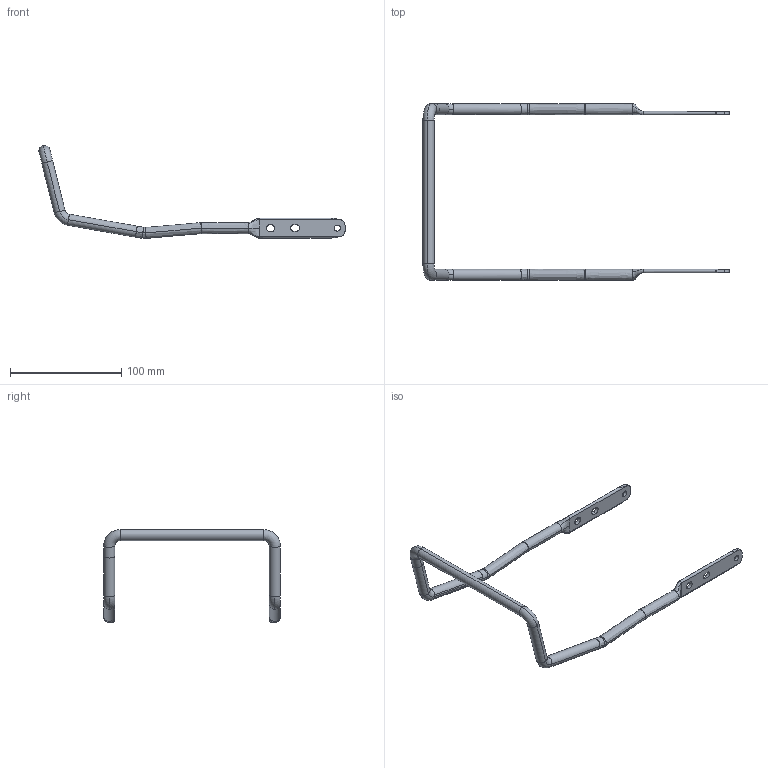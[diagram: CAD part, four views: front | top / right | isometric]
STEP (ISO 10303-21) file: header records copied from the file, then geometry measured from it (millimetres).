
FILE_DESCRIPTION(('CATIA V5 STEP Exchange'),'2;1');
FILE_NAME('F:\福田A6\1-数据\6-冻结数据\第九批\设变\滑轨解锁手柄设变20241021\设变后数据\SHT0017092-20241021\SHT0017092.stp','2024-10-21T09:12:24+00:00',('none'),('none'),'CATIA Version 5 Release 20 GA (IN-10)','CATIA V5 STEP AP203','none');
FILE_SCHEMA(('CONFIG_CONTROL_DESIGN'));
Length unit declared in the file: millimetre
Products named in the file (1): SHT0017092-20241021
Bounding box: 275.31 x 159 x 83.58 mm (x, y, z)
Volume: 32701.4 mm3; surface area: 38956.6 mm2
Topology: 1 solids, 2 shells, 149 faces, 381 edges, 236 vertices
Faces by surface type: cylinder 48, bspline 30, plane 26, extrusion 25, torus 20
Entity records: 10692 total; most frequent: CARTESIAN_POINT 7644, ORIENTED_EDGE 762, EDGE_CURVE 381, DIRECTION 343, VERTEX_POINT 236, B_SPLINE_CURVE_WITH_KNOTS 202, AXIS2_PLACEMENT_3D 162, EDGE_LOOP 161
